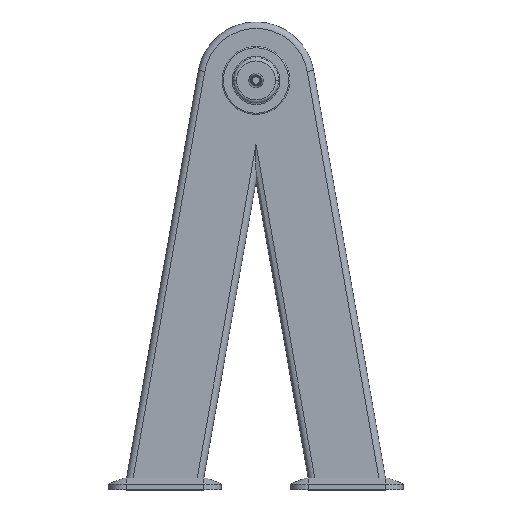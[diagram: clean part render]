
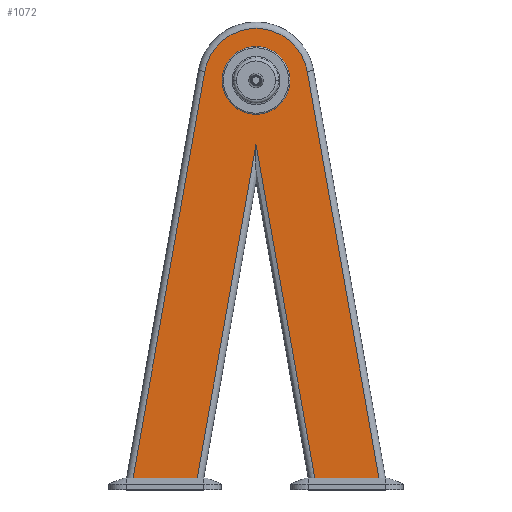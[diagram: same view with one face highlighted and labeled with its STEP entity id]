
A CAD part, top view. The second image highlights one B-rep face of the part: STEP entity #1072.
In plain terms, the highlighted planar face has unit normal (0, 0, 1).
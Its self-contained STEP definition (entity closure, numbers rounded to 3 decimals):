
#6 = CARTESIAN_POINT ( 'NONE',  ( 0., 20., 63. ) ) ;
#10 = ORIENTED_EDGE ( 'NONE', *, *, #1161, .F. ) ;
#51 = DIRECTION ( 'NONE',  ( 0., 0., 1. ) ) ;
#52 = CIRCLE ( 'NONE', #2128, 58. ) ;
#149 = EDGE_LOOP ( 'NONE', ( #1562, #1017 ) ) ;
#153 = VERTEX_POINT ( 'NONE', #2640 ) ;
#252 = EDGE_CURVE ( 'NONE', #493, #592, #2178, .T. ) ;
#333 = EDGE_CURVE ( 'NONE', #1159, #1806, #52, .T. ) ;
#351 = CARTESIAN_POINT ( 'NONE',  ( -58., 700., 63. ) ) ;
#373 = DIRECTION ( 'NONE',  ( -1., 0., 0. ) ) ;
#409 = VERTEX_POINT ( 'NONE', #2535 ) ;
#489 = VECTOR ( 'NONE', #2612, 1000. ) ;
#493 = VERTEX_POINT ( 'NONE', #2573 ) ;
#522 = DIRECTION ( 'NONE',  ( -0.174, -0.985, 0. ) ) ;
#592 = VERTEX_POINT ( 'NONE', #1571 ) ;
#699 = LINE ( 'NONE', #1622, #1870 ) ;
#758 = ORIENTED_EDGE ( 'NONE', *, *, #2687, .T. ) ;
#765 = EDGE_CURVE ( 'NONE', #2386, #1760, #1739, .T. ) ;
#783 = CARTESIAN_POINT ( 'NONE',  ( 0., 700., 63. ) ) ;
#792 = CARTESIAN_POINT ( 'NONE',  ( 0., 20., 63. ) ) ;
#821 = LINE ( 'NONE', #6, #2522 ) ;
#1013 = DIRECTION ( 'NONE',  ( 1., 0., 0. ) ) ;
#1017 = ORIENTED_EDGE ( 'NONE', *, *, #2400, .F. ) ;
#1043 = PLANE ( 'NONE',  #2332 ) ;
#1072 = ADVANCED_FACE ( 'NONE', ( #1353, #1397 ), #1043, .T. ) ;
#1078 = CARTESIAN_POINT ( 'NONE',  ( 210.275, 20., 63. ) ) ;
#1133 = CARTESIAN_POINT ( 'NONE',  ( 0., 700., 63. ) ) ;
#1159 = VERTEX_POINT ( 'NONE', #351 ) ;
#1161 = EDGE_CURVE ( 'NONE', #1679, #153, #821, .T. ) ;
#1282 = ORIENTED_EDGE ( 'NONE', *, *, #2077, .F. ) ;
#1286 = ORIENTED_EDGE ( 'NONE', *, *, #1584, .T. ) ;
#1353 = FACE_BOUND ( 'NONE', #149, .T. ) ;
#1361 = CARTESIAN_POINT ( 'NONE',  ( 58., 700., 63. ) ) ;
#1368 = DIRECTION ( 'NONE',  ( 1., 0., 0. ) ) ;
#1397 = FACE_OUTER_BOUND ( 'NONE', #2351, .T. ) ;
#1504 = CARTESIAN_POINT ( 'NONE',  ( 0., 700., 63. ) ) ;
#1562 = ORIENTED_EDGE ( 'NONE', *, *, #333, .F. ) ;
#1571 = CARTESIAN_POINT ( 'NONE',  ( -210.275, 20., 63. ) ) ;
#1584 = EDGE_CURVE ( 'NONE', #409, #493, #2648, .T. ) ;
#1608 = CARTESIAN_POINT ( 'NONE',  ( 106.721, -14.664, 63. ) ) ;
#1622 = CARTESIAN_POINT ( 'NONE',  ( 87.648, 715.455, 63. ) ) ;
#1648 = DIRECTION ( 'NONE',  ( 0.174, 0.985, 0. ) ) ;
#1679 = VERTEX_POINT ( 'NONE', #1078 ) ;
#1710 = ORIENTED_EDGE ( 'NONE', *, *, #765, .T. ) ;
#1739 = LINE ( 'NONE', #2493, #1861 ) ;
#1741 = DIRECTION ( 'NONE',  ( 1., 0., 0. ) ) ;
#1760 = VERTEX_POINT ( 'NONE', #2267 ) ;
#1806 = VERTEX_POINT ( 'NONE', #1361 ) ;
#1821 = CARTESIAN_POINT ( 'NONE',  ( -100.609, 20., 63. ) ) ;
#1853 = DIRECTION ( 'NONE',  ( -0.174, 0.985, 0. ) ) ;
#1861 = VECTOR ( 'NONE', #1648, 1000. ) ;
#1870 = VECTOR ( 'NONE', #1853, 1000. ) ;
#1971 = ORIENTED_EDGE ( 'NONE', *, *, #2438, .T. ) ;
#1973 = ORIENTED_EDGE ( 'NONE', *, *, #252, .T. ) ;
#1987 = VECTOR ( 'NONE', #2391, 1000. ) ;
#2015 = DIRECTION ( 'NONE',  ( 1., 0., 0. ) ) ;
#2077 = EDGE_CURVE ( 'NONE', #2386, #592, #2518, .T. ) ;
#2128 = AXIS2_PLACEMENT_3D ( 'NONE', #783, #2387, #1013 ) ;
#2166 = CARTESIAN_POINT ( 'NONE',  ( -215.197, -7.91, 63. ) ) ;
#2175 = VECTOR ( 'NONE', #522, 1000. ) ;
#2178 = LINE ( 'NONE', #2166, #2175 ) ;
#2267 = CARTESIAN_POINT ( 'NONE',  ( 0., 590.583, 63. ) ) ;
#2332 = AXIS2_PLACEMENT_3D ( 'NONE', #2705, #2398, #2015 ) ;
#2336 = LINE ( 'NONE', #1608, #489 ) ;
#2351 = EDGE_LOOP ( 'NONE', ( #1282, #1710, #1971, #10, #758, #1286, #1973 ) ) ;
#2369 = AXIS2_PLACEMENT_3D ( 'NONE', #1504, #51, #1741 ) ;
#2386 = VERTEX_POINT ( 'NONE', #1821 ) ;
#2387 = DIRECTION ( 'NONE',  ( 0., 0., 1. ) ) ;
#2391 = DIRECTION ( 'NONE',  ( -1., 0., 0. ) ) ;
#2395 = CIRCLE ( 'NONE', #2430, 58. ) ;
#2398 = DIRECTION ( 'NONE',  ( 0., 0., 1. ) ) ;
#2400 = EDGE_CURVE ( 'NONE', #1806, #1159, #2395, .T. ) ;
#2430 = AXIS2_PLACEMENT_3D ( 'NONE', #1133, #2607, #1368 ) ;
#2438 = EDGE_CURVE ( 'NONE', #1760, #153, #2336, .T. ) ;
#2493 = CARTESIAN_POINT ( 'NONE',  ( -10.833, 529.147, 63. ) ) ;
#2518 = LINE ( 'NONE', #792, #1987 ) ;
#2522 = VECTOR ( 'NONE', #373, 1000. ) ;
#2535 = CARTESIAN_POINT ( 'NONE',  ( 87.648, 715.455, 63. ) ) ;
#2573 = CARTESIAN_POINT ( 'NONE',  ( -87.648, 715.455, 63. ) ) ;
#2607 = DIRECTION ( 'NONE',  ( 0., 0., 1. ) ) ;
#2612 = DIRECTION ( 'NONE',  ( 0.174, -0.985, 0. ) ) ;
#2640 = CARTESIAN_POINT ( 'NONE',  ( 100.609, 20., 63. ) ) ;
#2648 = CIRCLE ( 'NONE', #2369, 89. ) ;
#2687 = EDGE_CURVE ( 'NONE', #1679, #409, #699, .T. ) ;
#2705 = CARTESIAN_POINT ( 'NONE',  ( 0., 700., 63. ) ) ;
